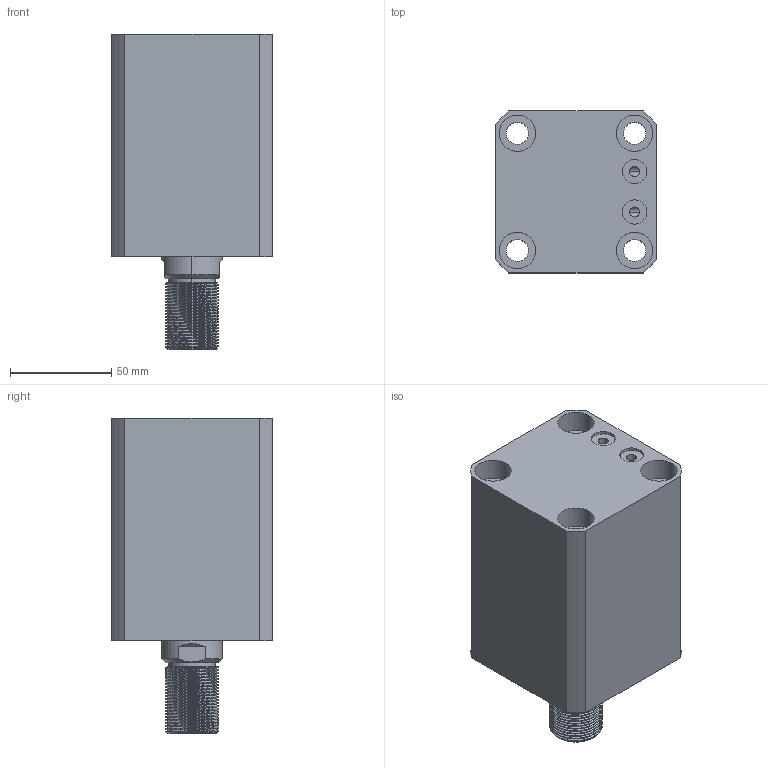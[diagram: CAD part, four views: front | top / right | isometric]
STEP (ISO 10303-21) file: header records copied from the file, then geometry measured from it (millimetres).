
FILE_DESCRIPTION (( 'STEP AP203' ), '1' );
FILE_NAME ('CHTB-SDMB50-50W.STEP', '2018-05-19T05:54:03', ( '' ), ( '' ), 'SwSTEP 2.0', 'SolidWorks 2015', '' );
FILE_SCHEMA (( 'CONFIG_CONTROL_DESIGN' ));
Length unit declared in the file: millimetre
Products named in the file (5): 掛极SDMB50-50N; CHTM-SDMA50QG; 活塞杆SDMB50-50N; M6; CHTB-SDMB50-50W
Assembly tree (5 placements, depth 2):
  CHTB-SDMB50-50W
    掛极SDMB50-50N
    活塞杆SDMB50-50N
    CHTM-SDMA50QG
    M6  x2
Bounding box: 80 x 80 x 156 mm (x, y, z)
Volume: 600136.7 mm3; surface area: 116803.8 mm2
Topology: 5 solids, 5 shells, 305 faces, 821 edges, 547 vertices
Faces by surface type: cylinder 175, plane 57, cone 29, bspline 28, torus 16
Entity records: 17763 total; most frequent: CARTESIAN_POINT 11022, ORIENTED_EDGE 1448, DIRECTION 1131, EDGE_CURVE 724, VERTEX_POINT 486, AXIS2_PLACEMENT_3D 455, EDGE_LOOP 312, ADVANCED_FACE 270
